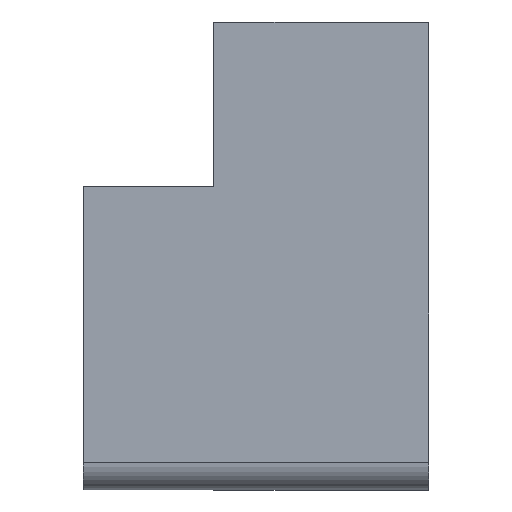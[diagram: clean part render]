
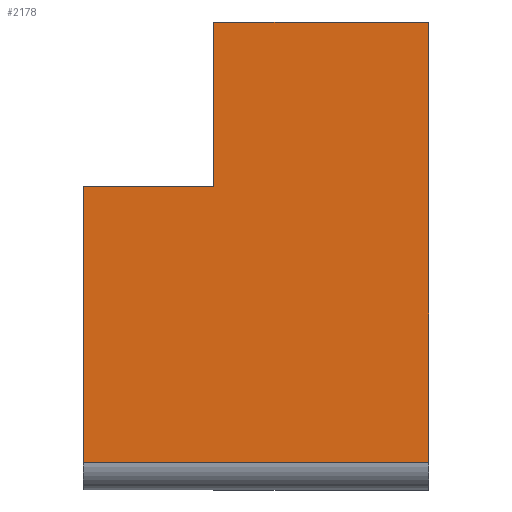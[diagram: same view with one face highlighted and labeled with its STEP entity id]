
A CAD part, front view. The second image highlights one B-rep face of the part: STEP entity #2178.
In plain terms, the highlighted planar face has unit normal (0, -1, 0).
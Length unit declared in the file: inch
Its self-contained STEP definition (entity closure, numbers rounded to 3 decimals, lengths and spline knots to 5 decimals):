
#44 = VECTOR ( 'NONE', #1795, 39.37008 ) ;
#93 = DIRECTION ( 'NONE',  ( 0., 0., 1. ) ) ;
#164 = VECTOR ( 'NONE', #456, 39.37008 ) ;
#175 = EDGE_CURVE ( 'NONE', #2044, #2231, #2021, .T. ) ;
#213 = ORIENTED_EDGE ( 'NONE', *, *, #175, .T. ) ;
#288 = LINE ( 'NONE', #1826, #2586 ) ;
#392 = AXIS2_PLACEMENT_3D ( 'NONE', #1440, #548, #93 ) ;
#409 = EDGE_CURVE ( 'NONE', #1395, #441, #692, .T. ) ;
#441 = VERTEX_POINT ( 'NONE', #1164 ) ;
#456 = DIRECTION ( 'NONE',  ( 1., 0., 0. ) ) ;
#463 = CARTESIAN_POINT ( 'NONE',  ( -0.30906, -0.10236, -1.26673 ) ) ;
#489 = DIRECTION ( 'NONE',  ( 0., 0., -1. ) ) ;
#540 = EDGE_CURVE ( 'NONE', #1551, #441, #904, .T. ) ;
#548 = DIRECTION ( 'NONE',  ( 0., 1., 0. ) ) ;
#564 = VERTEX_POINT ( 'NONE', #1115 ) ;
#583 = LINE ( 'NONE', #1278, #2278 ) ;
#619 = DIRECTION ( 'NONE',  ( 0., 0., 1. ) ) ;
#692 = LINE ( 'NONE', #1632, #2060 ) ;
#721 = LINE ( 'NONE', #2866, #1375 ) ;
#904 = LINE ( 'NONE', #1572, #164 ) ;
#906 = CARTESIAN_POINT ( 'NONE',  ( 0.30906, -0.10236, 0. ) ) ;
#973 = VECTOR ( 'NONE', #2498, 39.37008 ) ;
#1093 = DIRECTION ( 'NONE',  ( 1., 0., 0. ) ) ;
#1115 = CARTESIAN_POINT ( 'NONE',  ( 0.30906, -0.10236, -0.75 ) ) ;
#1164 = CARTESIAN_POINT ( 'NONE',  ( -0.30906, -0.10236, -0.47244 ) ) ;
#1182 = CARTESIAN_POINT ( 'NONE',  ( 0.30906, -0.10236, -1.26673 ) ) ;
#1267 = ORIENTED_EDGE ( 'NONE', *, *, #409, .T. ) ;
#1278 = CARTESIAN_POINT ( 'NONE',  ( -0.68406, -0.10236, -0.47244 ) ) ;
#1374 = CARTESIAN_POINT ( 'NONE',  ( -0.68406, -0.10236, -1.26673 ) ) ;
#1375 = VECTOR ( 'NONE', #1093, 39.37008 ) ;
#1395 = VERTEX_POINT ( 'NONE', #1402 ) ;
#1400 = ORIENTED_EDGE ( 'NONE', *, *, #2108, .F. ) ;
#1402 = CARTESIAN_POINT ( 'NONE',  ( -0.30906, -0.10236, 0. ) ) ;
#1440 = CARTESIAN_POINT ( 'NONE',  ( -0.30906, -0.10236, 0. ) ) ;
#1551 = VERTEX_POINT ( 'NONE', #2442 ) ;
#1572 = CARTESIAN_POINT ( 'NONE',  ( -0.68406, -0.10236, -0.47244 ) ) ;
#1588 = EDGE_CURVE ( 'NONE', #1395, #2567, #721, .T. ) ;
#1632 = CARTESIAN_POINT ( 'NONE',  ( -0.30906, -0.10236, 0. ) ) ;
#1641 = CARTESIAN_POINT ( 'NONE',  ( 0.30906, -0.10236, 0. ) ) ;
#1754 = ORIENTED_EDGE ( 'NONE', *, *, #1588, .F. ) ;
#1795 = DIRECTION ( 'NONE',  ( 1., 0., 0. ) ) ;
#1826 = CARTESIAN_POINT ( 'NONE',  ( 0.30906, -0.10236, -1.34547 ) ) ;
#1989 = LINE ( 'NONE', #906, #973 ) ;
#2021 = LINE ( 'NONE', #463, #44 ) ;
#2044 = VERTEX_POINT ( 'NONE', #1374 ) ;
#2056 = EDGE_CURVE ( 'NONE', #564, #2231, #288, .T. ) ;
#2060 = VECTOR ( 'NONE', #2703, 39.37008 ) ;
#2108 = EDGE_CURVE ( 'NONE', #2567, #564, #1989, .T. ) ;
#2178 = ADVANCED_FACE ( 'NONE', ( #2540 ), #2531, .F. ) ;
#2231 = VERTEX_POINT ( 'NONE', #1182 ) ;
#2278 = VECTOR ( 'NONE', #619, 39.37008 ) ;
#2389 = EDGE_LOOP ( 'NONE', ( #2851, #213, #2468, #1400, #1754, #1267, #2393 ) ) ;
#2393 = ORIENTED_EDGE ( 'NONE', *, *, #540, .F. ) ;
#2442 = CARTESIAN_POINT ( 'NONE',  ( -0.68406, -0.10236, -0.47244 ) ) ;
#2468 = ORIENTED_EDGE ( 'NONE', *, *, #2056, .F. ) ;
#2498 = DIRECTION ( 'NONE',  ( 0., 0., -1. ) ) ;
#2531 = PLANE ( 'NONE',  #392 ) ;
#2540 = FACE_OUTER_BOUND ( 'NONE', #2389, .T. ) ;
#2567 = VERTEX_POINT ( 'NONE', #1641 ) ;
#2586 = VECTOR ( 'NONE', #489, 39.37008 ) ;
#2703 = DIRECTION ( 'NONE',  ( 0., 0., -1. ) ) ;
#2850 = EDGE_CURVE ( 'NONE', #2044, #1551, #583, .T. ) ;
#2851 = ORIENTED_EDGE ( 'NONE', *, *, #2850, .F. ) ;
#2866 = CARTESIAN_POINT ( 'NONE',  ( -0.30906, -0.10236, 0. ) ) ;
